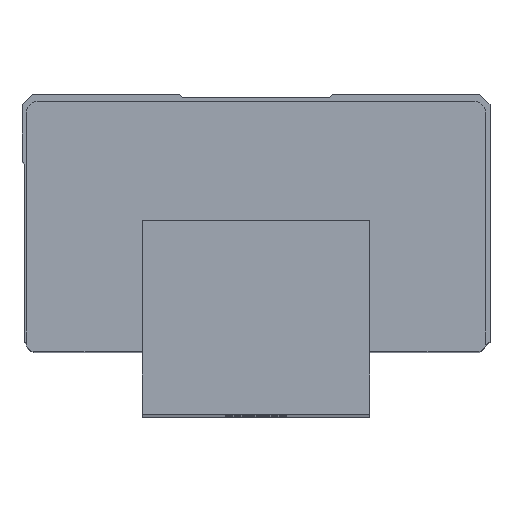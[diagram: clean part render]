
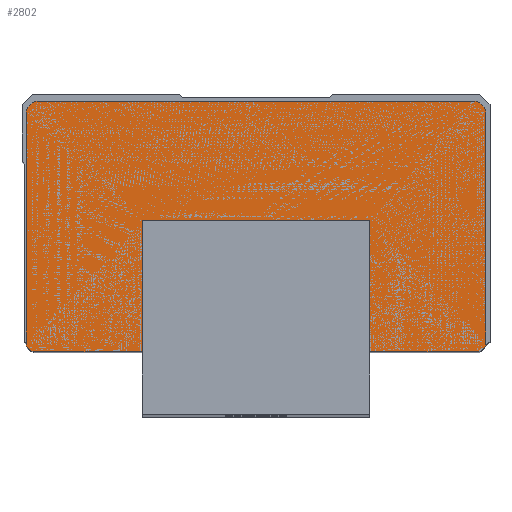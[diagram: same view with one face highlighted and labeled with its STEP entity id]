
A CAD part, top view. The second image highlights one B-rep face of the part: STEP entity #2802.
In plain terms, the highlighted planar face has unit normal (0, 0, 1).
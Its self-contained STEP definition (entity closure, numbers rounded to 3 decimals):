
#2408=CARTESIAN_POINT('',(-15.4,47.,189.5));
#2409=VERTEX_POINT('',#2408);
#2410=CARTESIAN_POINT('',(49.4,47.,189.5));
#2411=VERTEX_POINT('',#2410);
#2412=CARTESIAN_POINT('',(-15.4,47.,189.5));
#2413=DIRECTION('',(1.0,0.0,0.0));
#2414=VECTOR('',#2413,1.0);
#2415=LINE('',#2412,#2414);
#2416=EDGE_CURVE('',#2409,#2411,#2415,.T.);
#2448=CARTESIAN_POINT('',(51.4,45.,189.5));
#2449=VERTEX_POINT('',#2448);
#2450=CARTESIAN_POINT('',(49.4,45.,189.5));
#2451=DIRECTION('',(0.,0.,-1.0));
#2452=DIRECTION('',(0.,1.0,0.));
#2453=AXIS2_PLACEMENT_3D('',#2450,#2451,#2452);
#2454=CIRCLE('',#2453,2.);
#2455=EDGE_CURVE('',#2411,#2449,#2454,.T.);
#2481=CARTESIAN_POINT('',(51.4,10.8,189.5));
#2482=VERTEX_POINT('',#2481);
#2483=CARTESIAN_POINT('',(51.4,45.,189.5));
#2484=DIRECTION('',(0.0,-1.0,0.0));
#2485=VECTOR('',#2484,1.0);
#2486=LINE('',#2483,#2485);
#2487=EDGE_CURVE('',#2449,#2482,#2486,.T.);
#2512=CARTESIAN_POINT('',(50.1,9.5,189.5));
#2513=VERTEX_POINT('',#2512);
#2514=CARTESIAN_POINT('',(50.1,10.8,189.5));
#2515=DIRECTION('',(0.,0.,-1.0));
#2516=DIRECTION('',(1.0,0.,0.));
#2517=AXIS2_PLACEMENT_3D('',#2514,#2515,#2516);
#2518=CIRCLE('',#2517,1.3);
#2519=EDGE_CURVE('',#2482,#2513,#2518,.T.);
#2545=CARTESIAN_POINT('',(34.,9.5,189.5));
#2546=VERTEX_POINT('',#2545);
#2547=CARTESIAN_POINT('',(50.1,9.5,189.5));
#2548=DIRECTION('',(-1.0,0.0,0.0));
#2549=VECTOR('',#2548,1.0);
#2550=LINE('',#2547,#2549);
#2551=EDGE_CURVE('',#2513,#2546,#2550,.T.);
#2576=CARTESIAN_POINT('',(34.,28.9,189.5));
#2577=VERTEX_POINT('',#2576);
#2578=CARTESIAN_POINT('',(34.,9.5,189.5));
#2579=DIRECTION('',(0.0,1.0,0.0));
#2580=VECTOR('',#2579,1.0);
#2581=LINE('',#2578,#2580);
#2582=EDGE_CURVE('',#2546,#2577,#2581,.T.);
#2607=CARTESIAN_POINT('',(0.,28.9,189.5));
#2608=VERTEX_POINT('',#2607);
#2609=CARTESIAN_POINT('',(34.,28.9,189.5));
#2610=DIRECTION('',(-1.0,0.0,0.0));
#2611=VECTOR('',#2610,1.0);
#2612=LINE('',#2609,#2611);
#2613=EDGE_CURVE('',#2577,#2608,#2612,.T.);
#2638=CARTESIAN_POINT('',(0.,9.5,189.5));
#2639=VERTEX_POINT('',#2638);
#2640=CARTESIAN_POINT('',(0.,28.9,189.5));
#2641=DIRECTION('',(0.0,-1.0,0.0));
#2642=VECTOR('',#2641,1.0);
#2643=LINE('',#2640,#2642);
#2644=EDGE_CURVE('',#2608,#2639,#2643,.T.);
#2669=CARTESIAN_POINT('',(-16.1,9.5,189.5));
#2670=VERTEX_POINT('',#2669);
#2671=CARTESIAN_POINT('',(0.,9.5,189.5));
#2672=DIRECTION('',(-1.0,0.0,0.0));
#2673=VECTOR('',#2672,1.0);
#2674=LINE('',#2671,#2673);
#2675=EDGE_CURVE('',#2639,#2670,#2674,.T.);
#2700=CARTESIAN_POINT('',(-17.4,10.8,189.5));
#2701=VERTEX_POINT('',#2700);
#2702=CARTESIAN_POINT('',(-16.1,10.8,189.5));
#2703=DIRECTION('',(0.,0.,-1.0));
#2704=DIRECTION('',(0.,-1.0,0.));
#2705=AXIS2_PLACEMENT_3D('',#2702,#2703,#2704);
#2706=CIRCLE('',#2705,1.3);
#2707=EDGE_CURVE('',#2670,#2701,#2706,.T.);
#2733=CARTESIAN_POINT('',(-17.4,45.,189.5));
#2734=VERTEX_POINT('',#2733);
#2735=CARTESIAN_POINT('',(-17.4,10.8,189.5));
#2736=DIRECTION('',(0.0,1.0,0.0));
#2737=VECTOR('',#2736,1.0);
#2738=LINE('',#2735,#2737);
#2739=EDGE_CURVE('',#2701,#2734,#2738,.T.);
#2764=CARTESIAN_POINT('',(-15.4,45.,189.5));
#2765=DIRECTION('',(0.,0.,-1.0));
#2766=DIRECTION('',(-1.0,0.,0.));
#2767=AXIS2_PLACEMENT_3D('',#2764,#2765,#2766);
#2768=CIRCLE('',#2767,2.0);
#2769=EDGE_CURVE('',#2734,#2409,#2768,.T.);
#2783=CARTESIAN_POINT('',(-20.84,7.625,189.5));
#2784=DIRECTION('',(0.0,0.0,1.0));
#2785=DIRECTION('',(1.0,0.0,0.0));
#2786=AXIS2_PLACEMENT_3D('',#2783,#2784,#2785);
#2787=PLANE('',#2786);
#2788=ORIENTED_EDGE('',*,*,#2416,.F.);
#2789=ORIENTED_EDGE('',*,*,#2769,.F.);
#2790=ORIENTED_EDGE('',*,*,#2739,.F.);
#2791=ORIENTED_EDGE('',*,*,#2707,.F.);
#2792=ORIENTED_EDGE('',*,*,#2675,.F.);
#2793=ORIENTED_EDGE('',*,*,#2644,.F.);
#2794=ORIENTED_EDGE('',*,*,#2613,.F.);
#2795=ORIENTED_EDGE('',*,*,#2582,.F.);
#2796=ORIENTED_EDGE('',*,*,#2551,.F.);
#2797=ORIENTED_EDGE('',*,*,#2519,.F.);
#2798=ORIENTED_EDGE('',*,*,#2487,.F.);
#2799=ORIENTED_EDGE('',*,*,#2455,.F.);
#2800=EDGE_LOOP('',(#2788,#2789,#2790,#2791,#2792,#2793,#2794,#2795,#2796,#2797,#2798,#2799));
#2801=FACE_OUTER_BOUND('',#2800,.T.);
#2802=ADVANCED_FACE('',(#2801),#2787,.T.);
